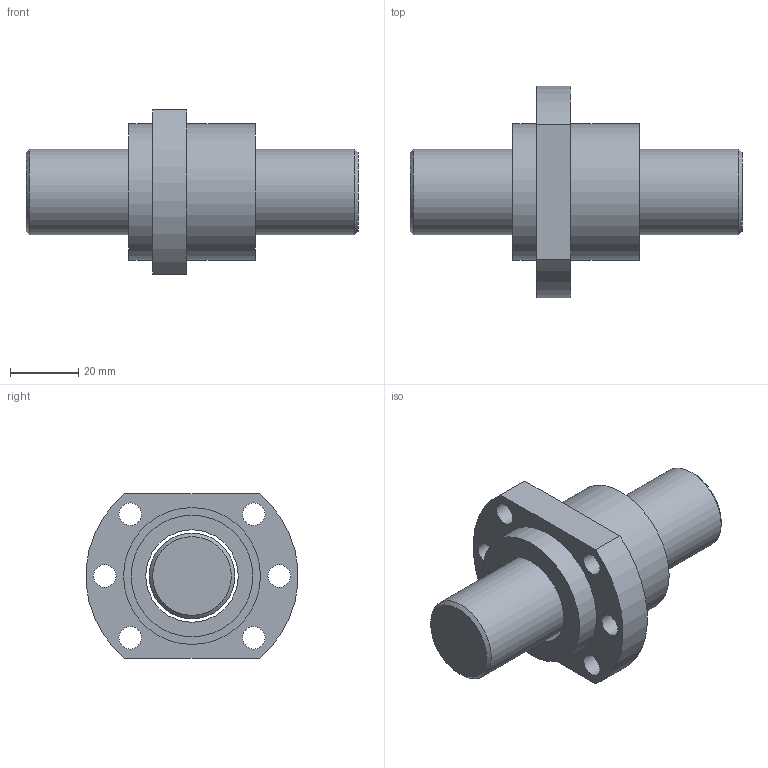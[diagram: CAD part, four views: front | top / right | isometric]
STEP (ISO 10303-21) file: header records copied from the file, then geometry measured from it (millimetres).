
FILE_DESCRIPTION(/* description */ (''),/* implementation_level */ '2;1');
FILE_NAME(/* name */ 'SFH2505-3.8.stp',/* time_stamp */ '2014-10-15T13:07:09+08:00',/* author */ (''),/* organization */ (''),/* preprocessor_version */ 'ST-DEVELOPER v11',/* originating_system */ 'SIEMENS UGS NX 6.0',/* authorisation */ '');
FILE_SCHEMA (('CONFIG_CONTROL_DESIGN'));
Length unit declared in the file: millimetre
Products named in the file (1): fannB1F9gmcf
Bounding box: 97 x 61.8 x 48 mm (x, y, z)
Volume: 84666.7 mm3; surface area: 27295 mm2
Topology: 4 solids, 4 shells, 50 faces, 90 edges, 60 vertices
Faces by surface type: cylinder 26, plane 22, cone 2
Full cylindrical faces by diameter (mm): 6.6 x6, 25 x1, 27 x3, 32 x4, 35.5 x4, 37 x4, 40 x2
Entity records: 1216 total; most frequent: DIRECTION 218, CARTESIAN_POINT 171, ORIENTED_EDGE 124, EDGE_LOOP 106, AXIS2_PLACEMENT_3D 105, FACE_BOUND 100, EDGE_CURVE 62, VERTEX_POINT 58
